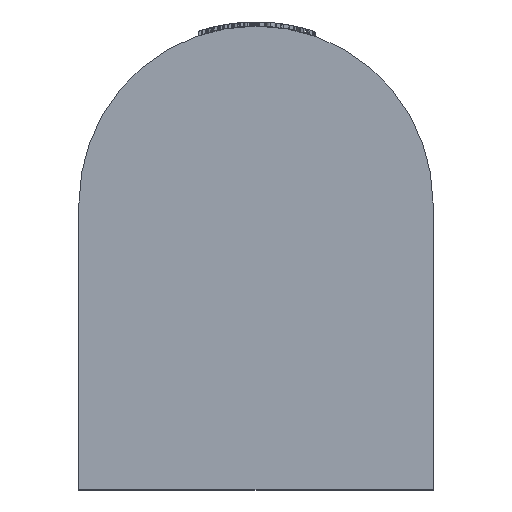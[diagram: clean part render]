
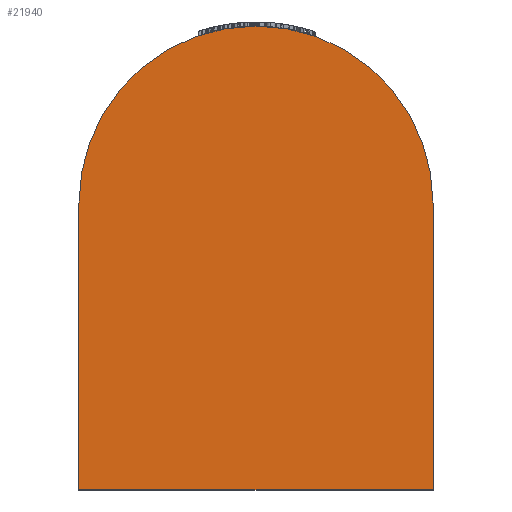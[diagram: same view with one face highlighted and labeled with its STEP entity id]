
A CAD part, top view. The second image highlights one B-rep face of the part: STEP entity #21940.
In plain terms, the highlighted planar face has unit normal (0, 0, 1).
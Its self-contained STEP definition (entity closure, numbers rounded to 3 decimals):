
#2354=PLANE('',#23576);
#3511=FACE_OUTER_BOUND('',#4805,.T.);
#4805=EDGE_LOOP('',(#19940,#19941,#19942,#19943));
#6390=LINE('',#48980,#7958);
#6393=LINE('',#48985,#7961);
#6395=LINE('',#48989,#7963);
#7958=VECTOR('',#28281,10.);
#7961=VECTOR('',#28286,10.);
#7963=VECTOR('',#28290,10.);
#8438=CIRCLE('',#23575,42.);
#10563=VERTEX_POINT('',#48978);
#10564=VERTEX_POINT('',#48979);
#10565=VERTEX_POINT('',#48984);
#10566=VERTEX_POINT('',#48988);
#13724=EDGE_CURVE('',#10563,#10564,#6390,.T.);
#13727=EDGE_CURVE('',#10564,#10565,#6393,.T.);
#13729=EDGE_CURVE('',#10565,#10566,#6395,.T.);
#13731=EDGE_CURVE('',#10566,#10563,#8438,.T.);
#19940=ORIENTED_EDGE('',*,*,#13724,.F.);
#19941=ORIENTED_EDGE('',*,*,#13731,.F.);
#19942=ORIENTED_EDGE('',*,*,#13729,.F.);
#19943=ORIENTED_EDGE('',*,*,#13727,.F.);
#21940=ADVANCED_FACE('',(#3511),#2354,.T.);
#23575=AXIS2_PLACEMENT_3D('',#48992,#28294,#28295);
#23576=AXIS2_PLACEMENT_3D('',#48993,#28296,#28297);
#28281=DIRECTION('',(0.,-1.,0.));
#28286=DIRECTION('',(-1.,0.,0.));
#28290=DIRECTION('',(0.,1.,0.));
#28294=DIRECTION('center_axis',(0.,0.,-1.));
#28295=DIRECTION('ref_axis',(-1.,0.,0.));
#28296=DIRECTION('center_axis',(0.,0.,1.));
#28297=DIRECTION('ref_axis',(1.,0.,0.));
#48978=CARTESIAN_POINT('',(42.,68.,49.));
#48979=CARTESIAN_POINT('',(42.,0.,49.));
#48980=CARTESIAN_POINT('',(42.,68.,49.));
#48984=CARTESIAN_POINT('',(-42.,0.,49.));
#48985=CARTESIAN_POINT('',(42.,0.,49.));
#48988=CARTESIAN_POINT('',(-42.,68.,49.));
#48989=CARTESIAN_POINT('',(-42.,0.,49.));
#48992=CARTESIAN_POINT('Origin',(0.,68.,49.));
#48993=CARTESIAN_POINT('Origin',(0.,47.67,
49.));
